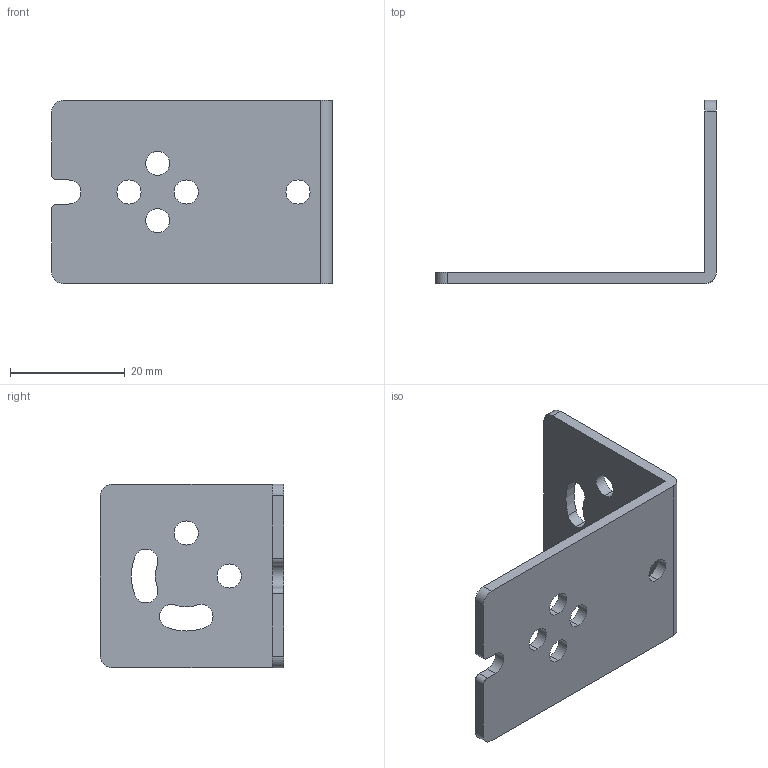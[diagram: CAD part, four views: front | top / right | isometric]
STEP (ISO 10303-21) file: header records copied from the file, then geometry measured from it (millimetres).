
FILE_DESCRIPTION (( 'STEP AP214' ), '1' );
FILE_NAME ('BK-VG-B.STEP', '2024-11-29T02:41:10', ( '' ), ( '' ), 'SwSTEP 2.0', 'SolidWorks 2024', '' );
FILE_SCHEMA (( 'AUTOMOTIVE_DESIGN' ));
Length unit declared in the file: millimetre
Products named in the file (1): BK-VG-B
Bounding box: 49 x 32 x 32 mm (x, y, z)
Volume: 4644.4 mm3; surface area: 5374.3 mm2
Topology: 1 solids, 1 shells, 44 faces, 126 edges, 84 vertices
Faces by surface type: cylinder 33, plane 11
Entity records: 1535 total; most frequent: DIRECTION 282, CARTESIAN_POINT 255, ORIENTED_EDGE 252, EDGE_CURVE 126, AXIS2_PLACEMENT_3D 111, VERTEX_POINT 84, CIRCLE 66, EDGE_LOOP 62
